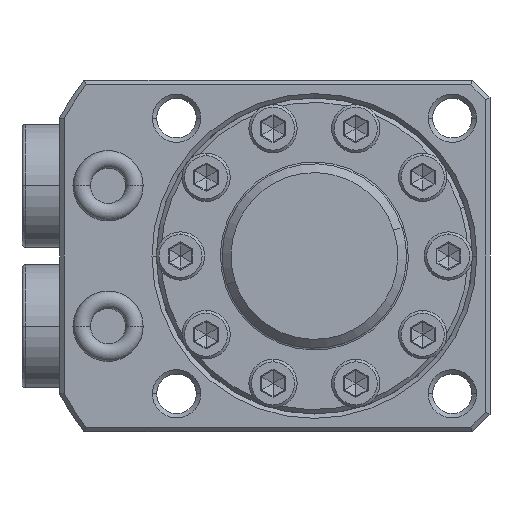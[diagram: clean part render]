
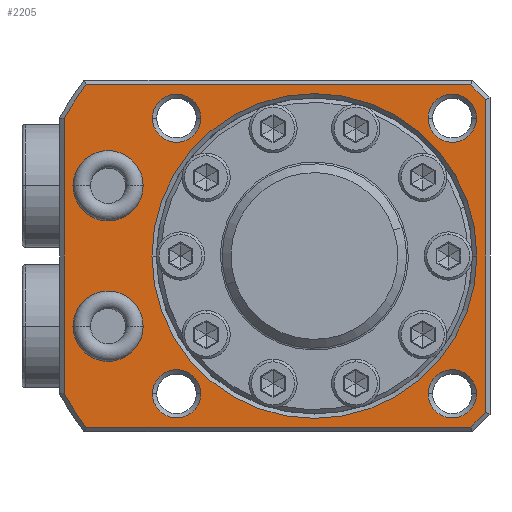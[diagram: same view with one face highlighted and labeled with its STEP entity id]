
A CAD part, front view. The second image highlights one B-rep face of the part: STEP entity #2205.
In plain terms, the highlighted planar face has unit normal (0, -1, 0).
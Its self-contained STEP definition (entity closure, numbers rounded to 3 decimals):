
#298=DIRECTION('',(-1.,0.,0.));
#299=VECTOR('',#298,43.793);
#300=CARTESIAN_POINT('',(17.793,-8.5,19.5));
#301=LINE('',#300,#299);
#302=DIRECTION('',(-0.707,0.,0.707));
#303=VECTOR('',#302,2.414);
#304=CARTESIAN_POINT('',(19.5,-8.5,17.793));
#305=LINE('',#304,#303);
#306=DIRECTION('',(0.,0.,1.));
#307=VECTOR('',#306,35.586);
#308=CARTESIAN_POINT('',(19.5,-8.5,-17.793));
#309=LINE('',#308,#307);
#310=DIRECTION('',(0.707,0.,0.707));
#311=VECTOR('',#310,2.414);
#312=CARTESIAN_POINT('',(17.793,-8.5,-19.5));
#313=LINE('',#312,#311);
#314=DIRECTION('',(1.,0.,0.));
#315=VECTOR('',#314,43.793);
#316=CARTESIAN_POINT('',(-26.,-8.5,-19.5));
#317=LINE('',#316,#315);
#318=CARTESIAN_POINT('',(0.,-8.5,0.));
#319=DIRECTION('',(0.,-1.,0.));
#320=DIRECTION('',(-0.877,0.,-0.481));
#321=AXIS2_PLACEMENT_3D('',#318,#319,#320);
#323=DIRECTION('',(0.,0.,-1.));
#324=VECTOR('',#323,31.241);
#325=CARTESIAN_POINT('',(-28.5,-8.5,15.62));
#326=LINE('',#325,#324);
#327=CARTESIAN_POINT('',(0.,-8.5,0.));
#328=DIRECTION('',(0.,-1.,0.));
#329=DIRECTION('',(-0.8,0.,0.6));
#330=AXIS2_PLACEMENT_3D('',#327,#328,#329);
#332=CARTESIAN_POINT('',(-23.5,-8.5,-8.));
#333=DIRECTION('',(0.,-1.,0.));
#334=DIRECTION('',(-1.,0.,0.));
#335=AXIS2_PLACEMENT_3D('',#332,#333,#334);
#337=CARTESIAN_POINT('',(-23.5,-8.5,-8.));
#338=DIRECTION('',(0.,-1.,0.));
#339=DIRECTION('',(1.,0.,0.));
#340=AXIS2_PLACEMENT_3D('',#337,#338,#339);
#342=CARTESIAN_POINT('',(-23.5,-8.5,8.));
#343=DIRECTION('',(0.,-1.,0.));
#344=DIRECTION('',(-1.,0.,0.));
#345=AXIS2_PLACEMENT_3D('',#342,#343,#344);
#347=CARTESIAN_POINT('',(-23.5,-8.5,8.));
#348=DIRECTION('',(0.,-1.,0.));
#349=DIRECTION('',(1.,0.,0.));
#350=AXIS2_PLACEMENT_3D('',#347,#348,#349);
#352=CARTESIAN_POINT('',(15.7,-8.5,15.7));
#353=DIRECTION('',(0.,1.,0.));
#354=DIRECTION('',(-1.,0.,0.));
#355=AXIS2_PLACEMENT_3D('',#352,#353,#354);
#357=CARTESIAN_POINT('',(15.7,-8.5,15.7));
#358=DIRECTION('',(0.,1.,0.));
#359=DIRECTION('',(1.,0.,0.));
#360=AXIS2_PLACEMENT_3D('',#357,#358,#359);
#362=CARTESIAN_POINT('',(15.7,-8.5,-15.7));
#363=DIRECTION('',(0.,1.,0.));
#364=DIRECTION('',(-1.,0.,0.));
#365=AXIS2_PLACEMENT_3D('',#362,#363,#364);
#367=CARTESIAN_POINT('',(15.7,-8.5,-15.7));
#368=DIRECTION('',(0.,1.,0.));
#369=DIRECTION('',(1.,0.,0.));
#370=AXIS2_PLACEMENT_3D('',#367,#368,#369);
#372=CARTESIAN_POINT('',(-15.7,-8.5,15.7));
#373=DIRECTION('',(0.,1.,0.));
#374=DIRECTION('',(-1.,0.,0.));
#375=AXIS2_PLACEMENT_3D('',#372,#373,#374);
#377=CARTESIAN_POINT('',(-15.7,-8.5,15.7));
#378=DIRECTION('',(0.,1.,0.));
#379=DIRECTION('',(1.,0.,0.));
#380=AXIS2_PLACEMENT_3D('',#377,#378,#379);
#382=CARTESIAN_POINT('',(-15.7,-8.5,-15.7));
#383=DIRECTION('',(0.,1.,0.));
#384=DIRECTION('',(-1.,0.,0.));
#385=AXIS2_PLACEMENT_3D('',#382,#383,#384);
#387=CARTESIAN_POINT('',(-15.7,-8.5,-15.7));
#388=DIRECTION('',(0.,1.,0.));
#389=DIRECTION('',(1.,0.,0.));
#390=AXIS2_PLACEMENT_3D('',#387,#388,#389);
#392=CARTESIAN_POINT('',(0.,-8.5,0.));
#393=DIRECTION('',(0.,-1.,0.));
#394=DIRECTION('',(-1.,0.,0.));
#395=AXIS2_PLACEMENT_3D('',#392,#393,#394);
#397=CARTESIAN_POINT('',(0.,-8.5,0.));
#398=DIRECTION('',(0.,-1.,0.));
#399=DIRECTION('',(1.,0.,0.));
#400=AXIS2_PLACEMENT_3D('',#397,#398,#399);
#1585=CARTESIAN_POINT('',(-27.5,-8.5,-8.));
#1586=CARTESIAN_POINT('',(-19.5,-8.5,-8.));
#1587=VERTEX_POINT('',#1585);
#1588=VERTEX_POINT('',#1586);
#1593=CARTESIAN_POINT('',(-27.5,-8.5,8.));
#1594=CARTESIAN_POINT('',(-19.5,-8.5,8.));
#1595=VERTEX_POINT('',#1593);
#1596=VERTEX_POINT('',#1594);
#1625=CARTESIAN_POINT('',(12.95,-8.5,15.7));
#1626=CARTESIAN_POINT('',(18.45,-8.5,15.7));
#1627=VERTEX_POINT('',#1625);
#1628=VERTEX_POINT('',#1626);
#1633=CARTESIAN_POINT('',(12.95,-8.5,-15.7));
#1634=CARTESIAN_POINT('',(18.45,-8.5,-15.7));
#1635=VERTEX_POINT('',#1633);
#1636=VERTEX_POINT('',#1634);
#1641=CARTESIAN_POINT('',(-18.45,-8.5,15.7));
#1642=CARTESIAN_POINT('',(-12.95,-8.5,15.7));
#1643=VERTEX_POINT('',#1641);
#1644=VERTEX_POINT('',#1642);
#1649=CARTESIAN_POINT('',(-18.45,-8.5,-15.7));
#1650=CARTESIAN_POINT('',(-12.95,-8.5,-15.7));
#1651=VERTEX_POINT('',#1649);
#1652=VERTEX_POINT('',#1650);
#1677=CARTESIAN_POINT('',(-18.5,-8.5,0.));
#1678=CARTESIAN_POINT('',(18.5,-8.5,0.));
#1679=VERTEX_POINT('',#1677);
#1680=VERTEX_POINT('',#1678);
#1693=CARTESIAN_POINT('',(17.793,-8.5,19.5));
#1694=CARTESIAN_POINT('',(-26.,-8.5,19.5));
#1695=VERTEX_POINT('',#1693);
#1696=VERTEX_POINT('',#1694);
#1713=CARTESIAN_POINT('',(-26.,-8.5,-19.5));
#1714=CARTESIAN_POINT('',(17.793,-8.5,-19.5));
#1715=VERTEX_POINT('',#1713);
#1716=VERTEX_POINT('',#1714);
#1721=CARTESIAN_POINT('',(19.5,-8.5,-17.793));
#1722=CARTESIAN_POINT('',(19.5,-8.5,17.793));
#1723=VERTEX_POINT('',#1721);
#1724=VERTEX_POINT('',#1722);
#1737=CARTESIAN_POINT('',(-28.5,-8.5,15.62));
#1738=CARTESIAN_POINT('',(-28.5,-8.5,-15.62));
#1739=VERTEX_POINT('',#1737);
#1740=VERTEX_POINT('',#1738);
#2141=CARTESIAN_POINT('',(0.,-8.5,0.));
#2142=DIRECTION('',(0.,-1.,0.));
#2143=DIRECTION('',(-1.,0.,0.));
#2144=AXIS2_PLACEMENT_3D('',#2141,#2142,#2143);
#2145=PLANE('',#2144);
#2147=ORIENTED_EDGE('',*,*,#2146,.F.);
#2149=ORIENTED_EDGE('',*,*,#2148,.F.);
#2151=ORIENTED_EDGE('',*,*,#2150,.F.);
#2153=ORIENTED_EDGE('',*,*,#2152,.F.);
#2155=ORIENTED_EDGE('',*,*,#2154,.F.);
#2157=ORIENTED_EDGE('',*,*,#2156,.F.);
#2158=ORIENTED_EDGE('',*,*,#2131,.F.);
#2160=ORIENTED_EDGE('',*,*,#2159,.F.);
#2161=EDGE_LOOP('',(#2147,#2149,#2151,#2153,#2155,#2157,#2158,#2160));
#2162=FACE_OUTER_BOUND('',#2161,.F.);
#2164=ORIENTED_EDGE('',*,*,#2163,.T.);
#2166=ORIENTED_EDGE('',*,*,#2165,.T.);
#2167=EDGE_LOOP('',(#2164,#2166));
#2168=FACE_BOUND('',#2167,.F.);
#2170=ORIENTED_EDGE('',*,*,#2169,.T.);
#2172=ORIENTED_EDGE('',*,*,#2171,.T.);
#2173=EDGE_LOOP('',(#2170,#2172));
#2174=FACE_BOUND('',#2173,.F.);
#2176=ORIENTED_EDGE('',*,*,#2175,.F.);
#2178=ORIENTED_EDGE('',*,*,#2177,.F.);
#2179=EDGE_LOOP('',(#2176,#2178));
#2180=FACE_BOUND('',#2179,.F.);
#2182=ORIENTED_EDGE('',*,*,#2181,.F.);
#2184=ORIENTED_EDGE('',*,*,#2183,.F.);
#2185=EDGE_LOOP('',(#2182,#2184));
#2186=FACE_BOUND('',#2185,.F.);
#2188=ORIENTED_EDGE('',*,*,#2187,.F.);
#2190=ORIENTED_EDGE('',*,*,#2189,.F.);
#2191=EDGE_LOOP('',(#2188,#2190));
#2192=FACE_BOUND('',#2191,.F.);
#2194=ORIENTED_EDGE('',*,*,#2193,.F.);
#2196=ORIENTED_EDGE('',*,*,#2195,.F.);
#2197=EDGE_LOOP('',(#2194,#2196));
#2198=FACE_BOUND('',#2197,.F.);
#2200=ORIENTED_EDGE('',*,*,#2199,.T.);
#2202=ORIENTED_EDGE('',*,*,#2201,.T.);
#2203=EDGE_LOOP('',(#2200,#2202));
#2204=FACE_BOUND('',#2203,.F.);
#2205=ADVANCED_FACE('',(#2162,#2168,#2174,#2180,#2186,#2192,#2198,#2204),#2145,
.T.);
#322=CIRCLE('',#321,32.5);
#331=CIRCLE('',#330,32.5);
#336=CIRCLE('',#335,4.);
#341=CIRCLE('',#340,4.);
#346=CIRCLE('',#345,4.);
#351=CIRCLE('',#350,4.);
#356=CIRCLE('',#355,2.75);
#361=CIRCLE('',#360,2.75);
#366=CIRCLE('',#365,2.75);
#371=CIRCLE('',#370,2.75);
#376=CIRCLE('',#375,2.75);
#381=CIRCLE('',#380,2.75);
#386=CIRCLE('',#385,2.75);
#391=CIRCLE('',#390,2.75);
#396=CIRCLE('',#395,18.5);
#401=CIRCLE('',#400,18.5);
#2131=EDGE_CURVE('',#1739,#1740,#326,.T.);
#2146=EDGE_CURVE('',#1695,#1696,#301,.T.);
#2148=EDGE_CURVE('',#1724,#1695,#305,.T.);
#2150=EDGE_CURVE('',#1723,#1724,#309,.T.);
#2152=EDGE_CURVE('',#1716,#1723,#313,.T.);
#2154=EDGE_CURVE('',#1715,#1716,#317,.T.);
#2156=EDGE_CURVE('',#1740,#1715,#322,.T.);
#2159=EDGE_CURVE('',#1696,#1739,#331,.T.);
#2163=EDGE_CURVE('',#1587,#1588,#336,.T.);
#2165=EDGE_CURVE('',#1588,#1587,#341,.T.);
#2169=EDGE_CURVE('',#1595,#1596,#346,.T.);
#2171=EDGE_CURVE('',#1596,#1595,#351,.T.);
#2175=EDGE_CURVE('',#1627,#1628,#356,.T.);
#2177=EDGE_CURVE('',#1628,#1627,#361,.T.);
#2181=EDGE_CURVE('',#1635,#1636,#366,.T.);
#2183=EDGE_CURVE('',#1636,#1635,#371,.T.);
#2187=EDGE_CURVE('',#1643,#1644,#376,.T.);
#2189=EDGE_CURVE('',#1644,#1643,#381,.T.);
#2193=EDGE_CURVE('',#1651,#1652,#386,.T.);
#2195=EDGE_CURVE('',#1652,#1651,#391,.T.);
#2199=EDGE_CURVE('',#1679,#1680,#396,.T.);
#2201=EDGE_CURVE('',#1680,#1679,#401,.T.);
